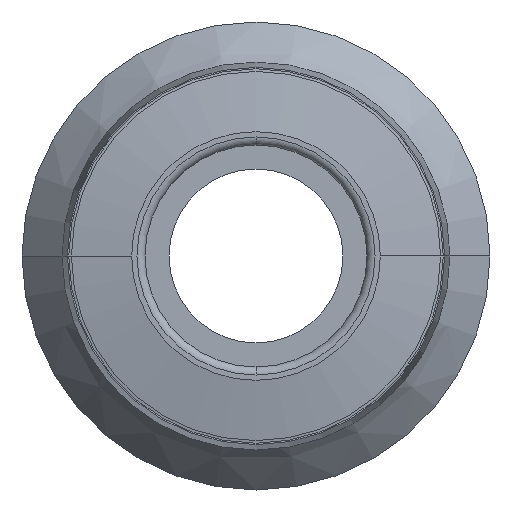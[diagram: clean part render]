
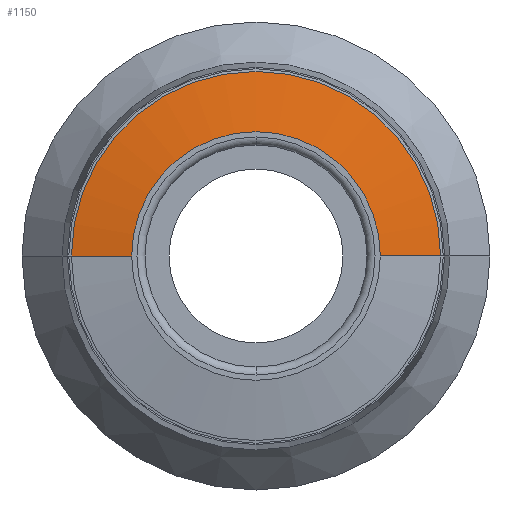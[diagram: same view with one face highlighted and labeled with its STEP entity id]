
A CAD part, front view. The second image highlights one B-rep face of the part: STEP entity #1150.
In plain terms, the highlighted conical face has half-angle 79.919 degrees and reference radius 5.775 mm.
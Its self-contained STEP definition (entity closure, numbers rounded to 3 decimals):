
#11 = ORIENTED_EDGE ( 'NONE', *, *, #951, .F. ) ;
#93 = LINE ( 'NONE', #457, #262 ) ;
#105 = VERTEX_POINT ( 'NONE', #1559 ) ;
#115 = VERTEX_POINT ( 'NONE', #1313 ) ;
#155 = CONICAL_SURFACE ( 'NONE', #1568, 5.775, 1.395 ) ;
#156 = DIRECTION ( 'NONE',  ( 0., 1., 0. ) ) ;
#182 = CARTESIAN_POINT ( 'NONE',  ( 0., 0.2, 0. ) ) ;
#233 = VECTOR ( 'NONE', #352, 1000. ) ;
#245 = EDGE_CURVE ( 'NONE', #1275, #105, #707, .T. ) ;
#262 = VECTOR ( 'NONE', #960, 1000. ) ;
#296 = DIRECTION ( 'NONE',  ( 0., 1., 0. ) ) ;
#318 = CIRCLE ( 'NONE', #1524, 4.65 ) ;
#352 = DIRECTION ( 'NONE',  ( 0.985, 0.175, 0. ) ) ;
#457 = CARTESIAN_POINT ( 'NONE',  ( -5.775, 0.2, 0. ) ) ;
#505 = ORIENTED_EDGE ( 'NONE', *, *, #1497, .T. ) ;
#515 = CARTESIAN_POINT ( 'NONE',  ( 0., 0.4, 0. ) ) ;
#545 = FACE_OUTER_BOUND ( 'NONE', #1399, .T. ) ;
#604 = CARTESIAN_POINT ( 'NONE',  ( 5.775, 0.2, 0. ) ) ;
#699 = CARTESIAN_POINT ( 'NONE',  ( -4.65, 0., 0. ) ) ;
#707 = LINE ( 'NONE', #604, #233 ) ;
#715 = EDGE_CURVE ( 'NONE', #115, #105, #1332, .T. ) ;
#795 = DIRECTION ( 'NONE',  ( -1., 0., 0. ) ) ;
#926 = CARTESIAN_POINT ( 'NONE',  ( 4.65, 0., 0. ) ) ;
#951 = EDGE_CURVE ( 'NONE', #1208, #115, #93, .T. ) ;
#960 = DIRECTION ( 'NONE',  ( -0.985, 0.175, 0. ) ) ;
#965 = AXIS2_PLACEMENT_3D ( 'NONE', #515, #156, #1029 ) ;
#1029 = DIRECTION ( 'NONE',  ( -1., 0., 0. ) ) ;
#1150 = ADVANCED_FACE ( 'NONE', ( #545 ), #155, .T. ) ;
#1208 = VERTEX_POINT ( 'NONE', #699 ) ;
#1215 = DIRECTION ( 'NONE',  ( 0., 1., 0. ) ) ;
#1275 = VERTEX_POINT ( 'NONE', #926 ) ;
#1313 = CARTESIAN_POINT ( 'NONE',  ( -6.9, 0.4, 0. ) ) ;
#1332 = CIRCLE ( 'NONE', #965, 6.9 ) ;
#1399 = EDGE_LOOP ( 'NONE', ( #505, #1457, #1564, #11 ) ) ;
#1457 = ORIENTED_EDGE ( 'NONE', *, *, #245, .T. ) ;
#1467 = CARTESIAN_POINT ( 'NONE',  ( 0., 0., 0. ) ) ;
#1497 = EDGE_CURVE ( 'NONE', #1208, #1275, #318, .T. ) ;
#1524 = AXIS2_PLACEMENT_3D ( 'NONE', #1467, #1215, #1617 ) ;
#1559 = CARTESIAN_POINT ( 'NONE',  ( 6.9, 0.4, 0. ) ) ;
#1564 = ORIENTED_EDGE ( 'NONE', *, *, #715, .F. ) ;
#1568 = AXIS2_PLACEMENT_3D ( 'NONE', #182, #296, #795 ) ;
#1617 = DIRECTION ( 'NONE',  ( -1., 0., 0. ) ) ;
